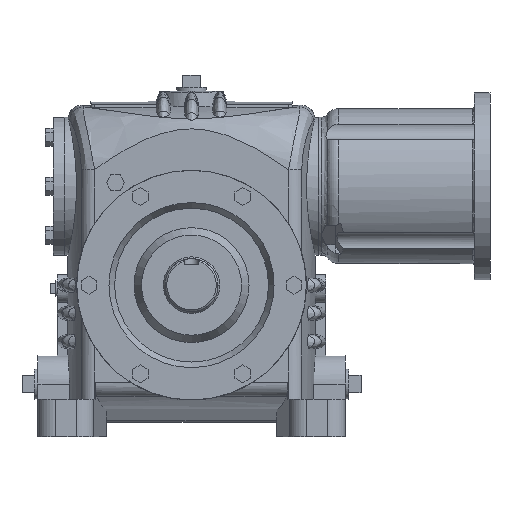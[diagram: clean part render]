
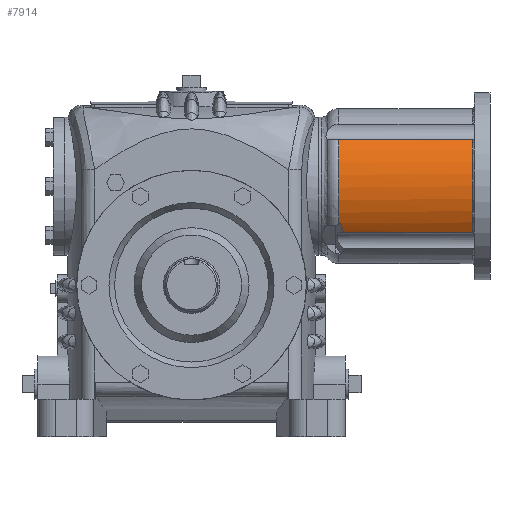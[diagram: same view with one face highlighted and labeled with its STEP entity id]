
A CAD part, front view. The second image highlights one B-rep face of the part: STEP entity #7914.
In plain terms, the highlighted cylindrical face has radius 69.85 mm (diameter 139.7 mm), a partial arc.
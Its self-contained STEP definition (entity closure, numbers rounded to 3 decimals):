
#190=ELLIPSE('',#9959,98.783,69.85);
#264=CYLINDRICAL_SURFACE('',#9957,69.85);
#537=B_SPLINE_CURVE_WITH_KNOTS('',3,(#18350,#18351,#18352,#18353),
 .UNSPECIFIED.,.F.,.F.,(4,4),(0.001,0.003),
 .UNSPECIFIED.);
#915=LINE('',#18357,#1522);
#916=LINE('',#18361,#1523);
#1522=VECTOR('',#11426,1000.);
#1523=VECTOR('',#11429,1000.);
#3265=ORIENTED_EDGE('',*,*,#4790,.F.);
#3266=ORIENTED_EDGE('',*,*,#4791,.T.);
#3267=ORIENTED_EDGE('',*,*,#4792,.T.);
#3268=ORIENTED_EDGE('',*,*,#4793,.T.);
#3269=ORIENTED_EDGE('',*,*,#4794,.T.);
#3270=ORIENTED_EDGE('',*,*,#4795,.T.);
#4790=EDGE_CURVE('',#5681,#5682,#6044,.T.);
#4791=EDGE_CURVE('',#5681,#5683,#537,.T.);
#4792=EDGE_CURVE('',#5683,#5684,#190,.T.);
#4793=EDGE_CURVE('',#5684,#5685,#915,.T.);
#4794=EDGE_CURVE('',#5685,#5686,#6045,.T.);
#4795=EDGE_CURVE('',#5686,#5682,#916,.F.);
#5681=VERTEX_POINT('',#18348);
#5682=VERTEX_POINT('',#18349);
#5683=VERTEX_POINT('',#18354);
#5684=VERTEX_POINT('',#18356);
#5685=VERTEX_POINT('',#18358);
#5686=VERTEX_POINT('',#18360);
#6044=CIRCLE('',#9958,69.85);
#6045=CIRCLE('',#9960,69.85);
#6488=EDGE_LOOP('',(#3265,#3266,#3267,#3268,#3269,#3270));
#7108=FACE_BOUND('',#6488,.T.);
#7914=ADVANCED_FACE('',(#7108),#264,.T.);
#9957=AXIS2_PLACEMENT_3D('',#18346,#11420,#11421);
#9958=AXIS2_PLACEMENT_3D('',#18347,#11422,#11423);
#9959=AXIS2_PLACEMENT_3D('',#18355,#11424,#11425);
#9960=AXIS2_PLACEMENT_3D('',#18359,#11427,#11428);
#11420=DIRECTION('',(-1.,0.,0.));
#11421=DIRECTION('',(0.,0.,1.));
#11422=DIRECTION('',(-1.,0.,0.));
#11423=DIRECTION('',(0.,0.,1.));
#11424=DIRECTION('',(0.707,0.5,0.5));
#11425=DIRECTION('',(-0.707,0.5,0.5));
#11426=DIRECTION('',(1.,0.,0.));
#11427=DIRECTION('',(-1.,0.,0.));
#11428=DIRECTION('',(0.,0.,1.));
#11429=DIRECTION('',(1.,0.,0.));
#18346=CARTESIAN_POINT('',(-60.008,0.,0.));
#18347=CARTESIAN_POINT('',(17.904,0.,0.));
#18348=CARTESIAN_POINT('',(17.904,-60.809,-34.371));
#18349=CARTESIAN_POINT('',(17.904,-55.807,42.007));
#18350=CARTESIAN_POINT('',(17.904,-60.809,-34.371));
#18351=CARTESIAN_POINT('',(18.616,-60.952,-34.117));
#18352=CARTESIAN_POINT('',(19.291,-61.128,-33.801));
#18353=CARTESIAN_POINT('',(19.946,-61.32,-33.45));
#18354=CARTESIAN_POINT('',(19.946,-61.32,-33.45));
#18355=CARTESIAN_POINT('',(-47.066,0.,0.));
#18356=CARTESIAN_POINT('',(22.099,-55.807,-42.007));
#18357=CARTESIAN_POINT('',(52.451,-55.807,-42.007));
#18358=CARTESIAN_POINT('',(138.24,-55.807,-42.007));
#18359=CARTESIAN_POINT('',(138.24,0.,0.));
#18360=CARTESIAN_POINT('',(138.24,-55.807,42.007));
#18361=CARTESIAN_POINT('',(52.451,-55.807,42.007));
